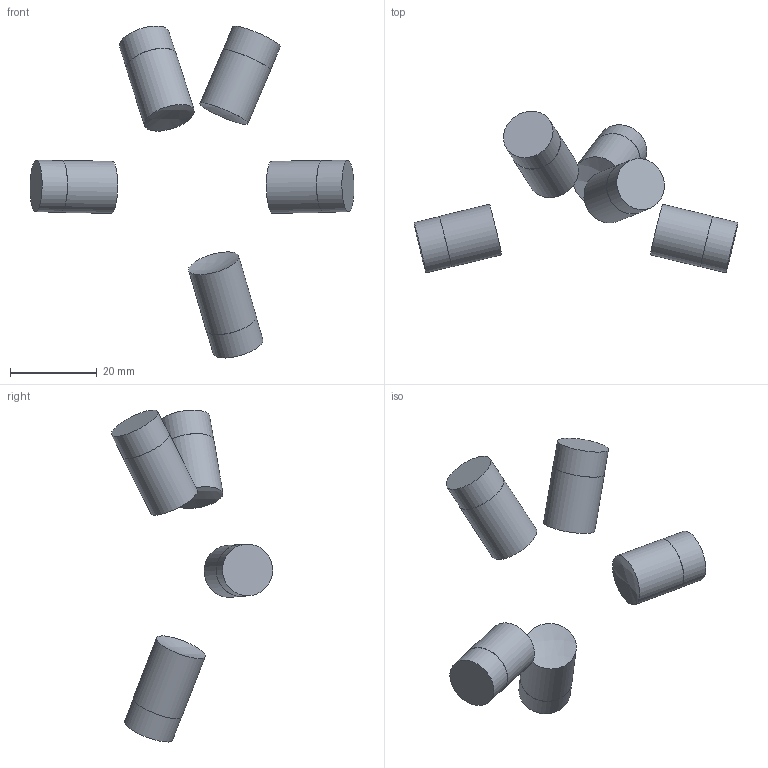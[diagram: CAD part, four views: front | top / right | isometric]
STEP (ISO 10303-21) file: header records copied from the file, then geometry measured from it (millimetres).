
FILE_DESCRIPTION(('Open CASCADE Model'),'2;1');
FILE_NAME('Open CASCADE Shape Model','2026-10-21T12:47:57',('Author'),( 'Open CASCADE'),'Open CASCADE STEP processor 7.9','Open CASCADE 7.9' ,'Unknown');
FILE_SCHEMA(('AUTOMOTIVE_DESIGN { 1 0 10303 214 1 1 1 1 }'));
Length unit declared in the file: millimetre
Products named in the file (1): Open CASCADE STEP translator 7.9 59
Bounding box: 74.72 x 37.21 x 76.56 mm (x, y, z)
Volume: 10747.9 mm3; surface area: 4823.8 mm2
Topology: 4 solids, 4 shells, 24 faces, 35 edges, 24 vertices
Faces by surface type: cylinder 10, plane 10, sphere 4
Full cylindrical faces by diameter (mm): 11.9 x5, 12 x5
Entity records: 1414 total; most frequent: CARTESIAN_POINT 570, DIRECTION 173, ORIENTED_EDGE 74, PCURVE 74, DEFINITIONAL_REPRESENTATION 74, LINE 60, VECTOR 60, AXIS2_PLACEMENT_3D 49
